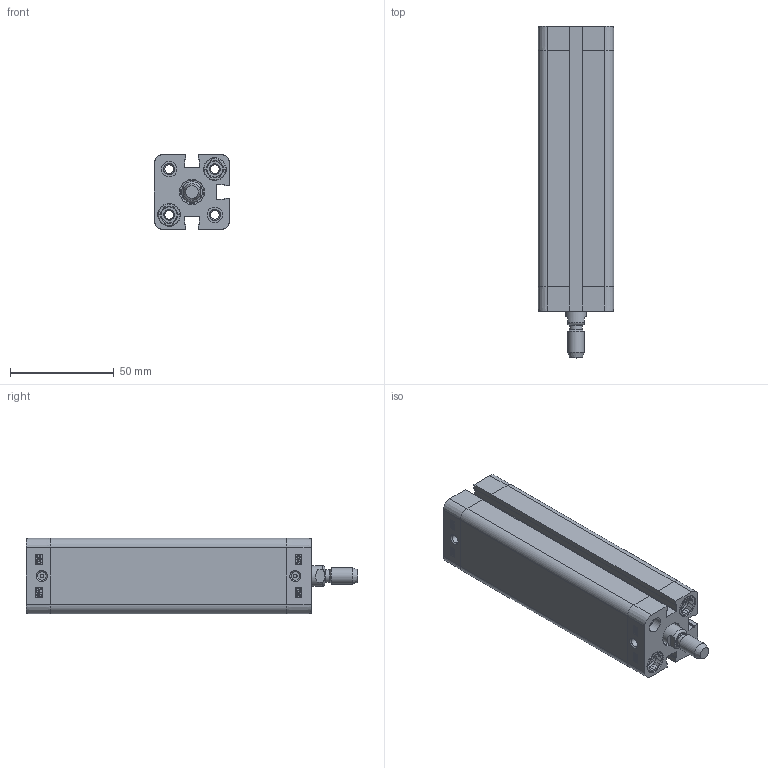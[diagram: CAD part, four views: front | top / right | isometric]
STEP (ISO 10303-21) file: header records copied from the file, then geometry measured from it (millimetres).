
FILE_DESCRIPTION((''),'2;1');
FILE_NAME('T:\Archivio Inventor\- CATALOGHI 2012\SERIE P - NUOVA\PDM\PDM020\PDM020.---.GS.M\STEP\PDM020.100.GS.M.stp','2013-01-30T10:59:36',('Administrator'),(''),'Autodesk Inventor 2012','Autodesk Inventor 2012','');
FILE_SCHEMA(('CONFIG_CONTROL_DESIGN'));
Length unit declared in the file: millimetre
Products named in the file (1): PDM020.100.GS.M
Bounding box: 36.3 x 159.6 x 36.3 mm (x, y, z)
Volume: 92149.8 mm3; surface area: 53304.9 mm2
Topology: 1 solids, 3 shells, 489 faces, 1225 edges, 798 vertices
Faces by surface type: plane 245, bspline 94, cylinder 88, cone 50, torus 12
Full cylindrical faces by diameter (mm): 1.75 x2, 4.134 x10, 5.8 x1, 7.5 x4, 7.55 x2, 8 x9, 9 x1, 10 x1, 10.8 x4, 11.1 x4, 11.4 x1, 20 x1, 22.3 x1, 22.5 x1
Entity records: 15051 total; most frequent: CARTESIAN_POINT 3734, ORIENTED_EDGE 2232, DIRECTION 1950, EDGE_CURVE 1116, VERTEX_POINT 782, VECTOR 670, LINE 670, EDGE_LOOP 652
